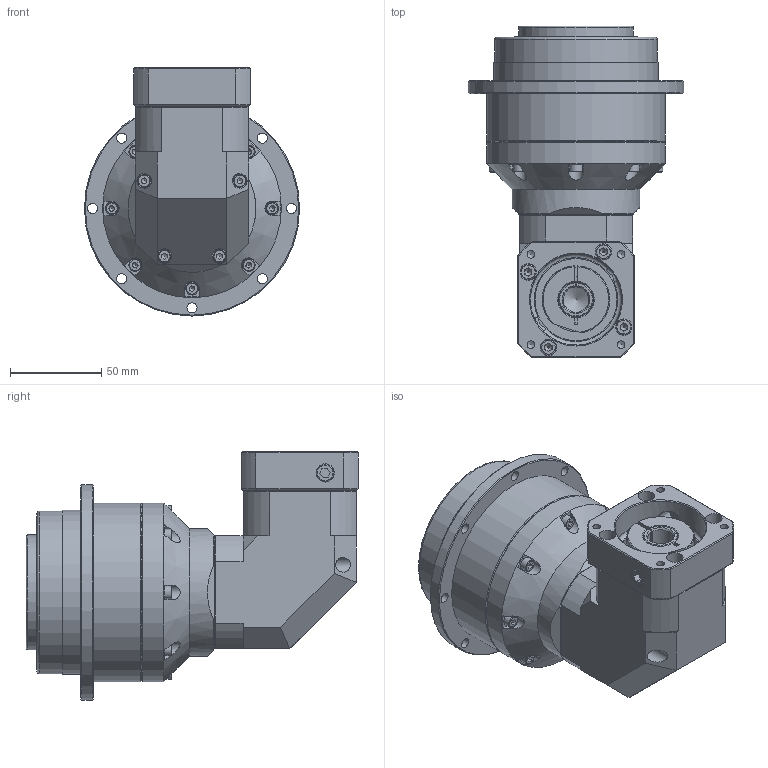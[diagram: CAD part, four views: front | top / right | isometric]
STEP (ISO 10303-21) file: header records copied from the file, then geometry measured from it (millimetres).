
FILE_DESCRIPTION((''),'2;1');
FILE_NAME('C:\Work\감속기 카다로그 도면\ATG Reducer(홈페이지)\KSDL\KSDL-90-2.stp','2014-07-07T11:00:50',('young'),(''),'Autodesk Inventor 2012','Autodesk Inventor 2012','');
FILE_SCHEMA(('AUTOMOTIVE_DESIGN { 1 0 10303 214 1 1 1 1 }'));
Length unit declared in the file: millimetre
Products named in the file (3): KSDL-90-2; BS 4168 : 부품 1 6각 소켓 머리 캡 나사 - 미터 M4 x 35
Assembly tree (5 placements, depth 2):
  KSDL-90-2
    KSDL-90-2
    BS 4168 : 부품 1 6각 소켓 머리 캡 나사 - 미터 M4 x 35  x4
Bounding box: 118 x 182 x 136 mm (x, y, z)
Volume: 653118.6 mm3; surface area: 194285.4 mm2
Topology: 26 solids, 26 shells, 839 faces, 1974 edges, 1259 vertices
Faces by surface type: plane 425, cylinder 215, cone 156, torus 32, bspline 11
Full cylindrical faces by diameter (mm): 2 x1, 3.3 x12, 4 x12, 4.2 x9, 4.5 x12, 5 x15, 5.5 x16, 5.76 x6, 6 x1, 7 x12, 8 x4, 8.5 x4, 9 x4, 9.5 x2, 14.2 x1, 15 x1, 17 x1, 19 x1, 19.8 x1, 25 x2, 27 x2, 31.5 x1, 34 x1, 35 x1, 40 x1, 45 x1, 46.917 x5, 48 x2, 48.8 x1, 49 x1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
Entity records: 25591 total; most frequent: CARTESIAN_POINT 8831, DIRECTION 3524, ORIENTED_EDGE 2972, EDGE_CURVE 1486, AXIS2_PLACEMENT_3D 1456, EDGE_LOOP 1220, VERTEX_POINT 1106, FACE_OUTER_BOUND 784
